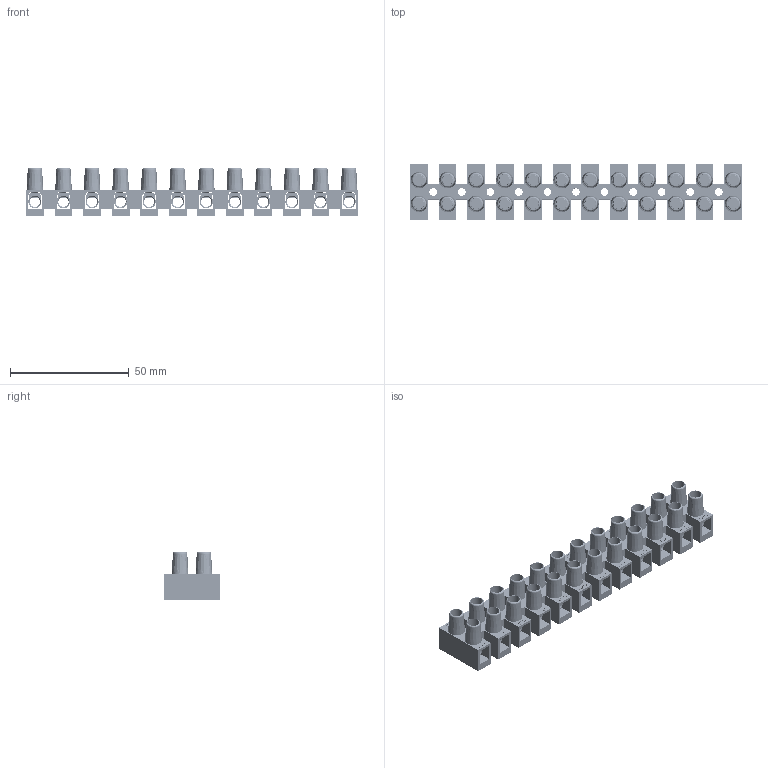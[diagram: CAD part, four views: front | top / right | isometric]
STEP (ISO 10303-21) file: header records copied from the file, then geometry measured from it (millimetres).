
FILE_DESCRIPTION(('HOOPS Exchange Step'),'2;1');
FILE_NAME('C:\Users\alefe\AppData\Local\Packages\Shapr3D.Shapr3D_dvv5p1vgwv6mp\TempState\export\temp_export','2025-12-07T18:59:07+01:00',('alefe'),('Shapr3D Limited'),'HOOPS Exchange 2025.7','Shapr3D','Authorized');
FILE_SCHEMA( ('AP242_MANAGED_MODEL_BASED_3D_ENGINEERING_MIM_LF {1 0 10303 442 1 1 4}') );
Length unit declared in the file: millimetre
Products named in the file (26): 2311133 bussola ok 433.step; Vite 433 2505648.step; Vite 433 2505648.step (1); OK433 NY SPM.step; Vite 433 2505648.step (3); Vite 433 2505648.step (2); 2301133 bussola 433.step (3); 2301133 bussola 433.step (2); 2301133 bussola 433.step (1); 2301133 bussola 433.step; OK433 NY.step; OK 433 NY - F BC.step; Loghi.shapr; Vite 434 2506048.step; 2301033 bussola 434.step; root
Assembly tree (25 placements, depth 6):
  root
    Loghi.shapr
      OK 433 NY - F BC.step
        2311133 bussola ok 433.step
        OK433 NY SPM.step
          Vite 433 2505648.step (1)
            Vite 433 2505648.step
        OK433 NY.step
          Vite 433 2505648.step (3)
          Vite 433 2505648.step (2)
          Vite 433 2505648.step (2)
          Vite 433 2505648.step (1)
          Vite 433 2505648.step (2)
          Vite 433 2505648.step (1)
          Vite 433 2505648.step (1)
          Vite 433 2505648.step
          2301133 bussola 433.step (3)
          2301133 bussola 433.step (2)
          2301133 bussola 433.step (2)
          2301133 bussola 433.step (1)
          2301133 bussola 433.step (2)
          2301133 bussola 433.step (1)
          2301133 bussola 433.step (1)
          2301133 bussola 433.step
    Vite 434 2506048.step
    2301033 bussola 434.step
Bounding box: 139.5 x 23.2 x 20 mm (x, y, z)
Volume: 17581 mm3; surface area: 39167.3 mm2
Topology: 37 solids, 37 shells, 3213 faces, 8475 edges, 5606 vertices
Faces by surface type: plane 1996, bspline 588, cylinder 461, torus 96, cone 72
Full cylindrical faces by diameter (mm): 1.122 x6, 2.5 x48, 3.2 x11, 3.6 x24, 3.893 x6, 4.3 x12, 4.5 x24, 5 x24
Entity records: 375802 total; most frequent: CARTESIAN_POINT 300102, ORIENTED_EDGE 16950, DIRECTION 12939, EDGE_CURVE 8475, VERTEX_POINT 5606, VECTOR 5333, LINE 5333, AXIS2_PLACEMENT_3D 3803
